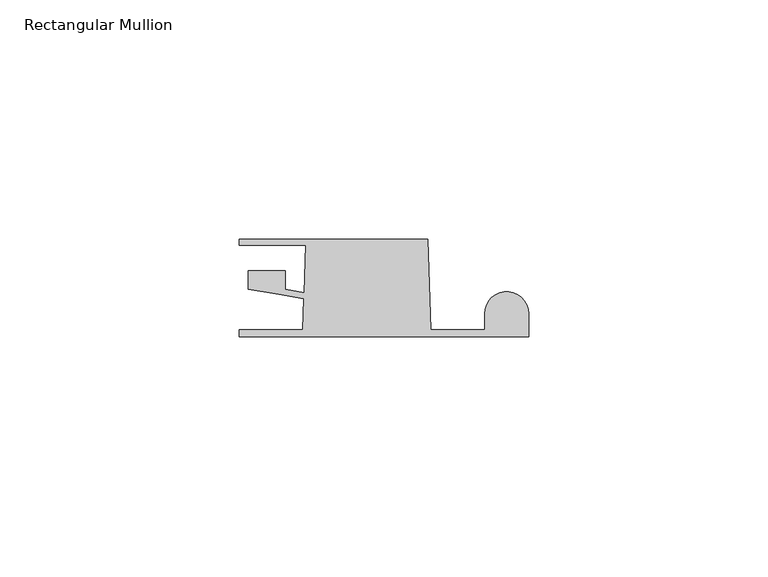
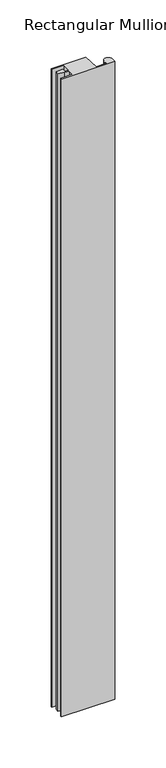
"""IFC4 building model written with IfcOpenShell, lengths in millimetres: member geometry, Rectangular Mullion : QuickPanel-Absolute_Multi-Angle-Inside-Corner-Trim-Left."""

from ifc_helpers import new_model, si_unit, point, frame, frame_2d, origin, place, context, project, spatial, polyline, circle_curve, trimmed, segment, composite_curve, outline, extrude, source, transform, mapped, element, save


def rectangular_mullion_a9ab8418(model_context):
    return source(origin(), model_context, "Body", "SweptSolid", [
        extrude(outline(composite_curve([segment(polyline([(-60.3420745, -8.095605), (-60.3420745, -6.6935423), (-47.1011618, -6.6935423), (-46.8743766, -0.1992641), (-52.1246575, 0.7008023), (-58.5599901, 1.8040245), (-58.5599901, 5.6493034), (-50.815217, 5.6493034), (-50.815217, 1.7648465), (-46.8296481, 1.0815922), (-46.485721, 10.9303752), (-60.3420745, 10.9303752), (-60.3420745, 12.1803727), (-21.0443089, 12.1803727), (-20.3850086, -6.6995181), (-9.144, -6.6995181), (-9.144, -3.3003083)]), True, "CONTINUOUS"), segment(trimmed(circle_curve(frame_2d((-4.572, -3.3003083)), 4.572), [point((-9.144, -3.3003083))], [point((0.0, -3.3003083))], False, "CARTESIAN"), True, "CONTINUOUS"), segment(polyline([(0.0, -3.3003083), (0.0, -8.095605), (-60.3420745, -8.095605)]), True, "CONTINUOUS")], self_intersect=False)), frame((0.0, 0.0, -762.0), z_axis=(0.0, 0.0, 1.0), x_axis=(1.0, 0.0, 0.0)), (0.0, 0.0, 1.0), 762.0),
    ])


if __name__ == "__main__":
    model = new_model("IFC4")
    model_context = context("Model", 3, world=origin())
    ifc_project = project(units=[si_unit("LENGTHUNIT", "METRE", prefix="MILLI")], contexts=[model_context])
    site = spatial("IfcSite", under=ifc_project)
    building = spatial("IfcBuilding", under=site)
    placement = place(None, origin())
    rectangular_mullion_shape = rectangular_mullion_a9ab8418(model_context)
    element("IfcMember", 1, ObjectType="Rectangular Mullion : QuickPanel-Absolute_Multi-Angle-Inside-Corner-Trim-Left", at=placement, inside=building, context=model_context, shape_type="MappedRepresentation", body=[
        mapped(rectangular_mullion_shape, transform((0.0, 0.0, 0.0), x_axis=(1.0, 0.0, 0.0), y_axis=(0.0, 1.0, 0.0), z_axis=(0.0, 0.0, 1.0))),
    ])
    save(model, "model.ifc")
